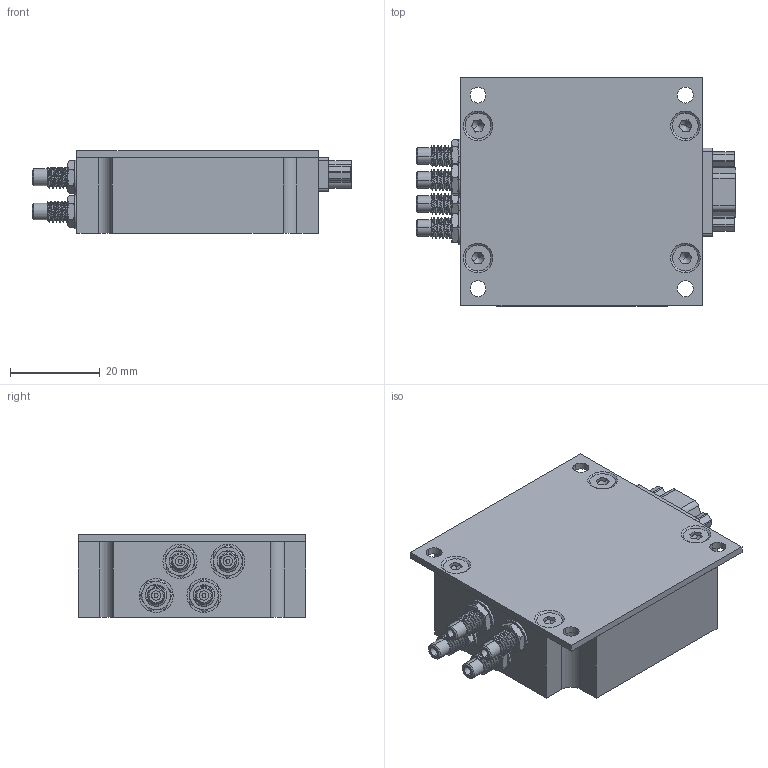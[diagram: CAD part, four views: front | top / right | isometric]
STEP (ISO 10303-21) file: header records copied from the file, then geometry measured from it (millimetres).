
FILE_DESCRIPTION (( 'STEP AP214' ), '1' );
FILE_NAME ('Kaman_KD-5100_3Dmodel-Sept2017.STEP', '2017-09-27T22:11:48', ( '' ), ( '' ), 'SwSTEP 2.0', 'SolidWorks 2015', '' );
FILE_SCHEMA (( 'AUTOMOTIVE_DESIGN' ));
Length unit declared in the file: inch
Products named in the file (13): 816541; 825320-006_Lock_Washer_91475A015; 826263-037; 813425; 826263-037_Nut_91240A411; 825320-006_JACK_SCREW; 853237; 825320-006; Kaman_KD-5100_3Dmodel-Sept2017; 826088-002_96877A209; 826263-037_Washer_92141A011; 826087-0187_92196A105; 825320-006_Nut_91841A145
Assembly tree (30 placements, depth 2):
  Kaman_KD-5100_3Dmodel-Sept2017
    816541
    813425
    853237
    826263-037  x4
    825320-006
    825320-006_JACK_SCREW  x2
    825320-006_Lock_Washer_91475A015  x2
    825320-006_Nut_91841A145  x2
    826263-037_Nut_91240A411  x4
    826263-037_Washer_92141A011  x4
    826088-002_96877A209  x4
    826087-0187_92196A105  x4
Bounding box: 71.12 x 50.8 x 18.34 mm (x, y, z)
Volume: 22243.9 mm3; surface area: 27205.8 mm2
Topology: 41 solids, 41 shells, 1503 faces, 3873 edges, 2486 vertices
Faces by surface type: cylinder 738, plane 431, cone 264, bspline 70
Entity records: 33293 total; most frequent: CARTESIAN_POINT 14921, ORIENTED_EDGE 3652, DIRECTION 3342, EDGE_CURVE 1826, AXIS2_PLACEMENT_3D 1237, VERTEX_POINT 1185, LINE 868, VECTOR 868
